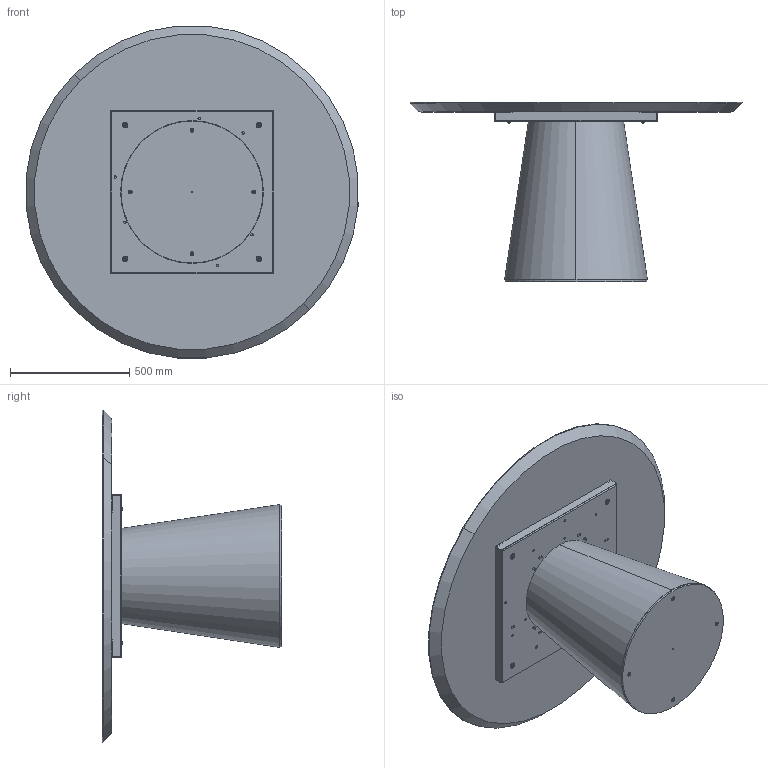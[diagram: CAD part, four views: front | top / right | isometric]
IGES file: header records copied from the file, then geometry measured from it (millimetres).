
Start section: SolidWorks IGES file using analytic representation for surfaces
Global section: file name: Y:\eforma\TECNICO\SOLIDWORKS\E-FORMA\1-TAVOLI\TEO\08 modelli 3D web\TO06W_Teo_d.140_Wood.IGS; native system: SolidWorks 2022; preprocessor: SolidWorks 2022; author: eforma.tech; date: 240802.112246; units: millimetre
Bounding box: 1394.67 x 753.19 x 1394.67 mm (x, y, z)
Volume: 88862145.3 mm3; surface area: 7585831.9 mm2
Topology: 20 solids, 20 shells, 806 faces, 2014 edges, 1238 vertices
Faces by surface type: revolution 436, plane 370
